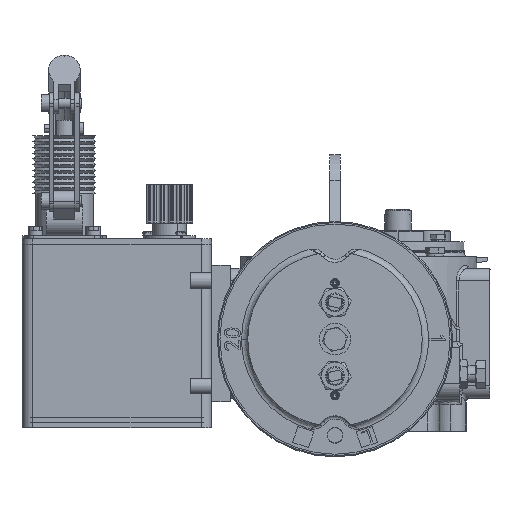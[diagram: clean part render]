
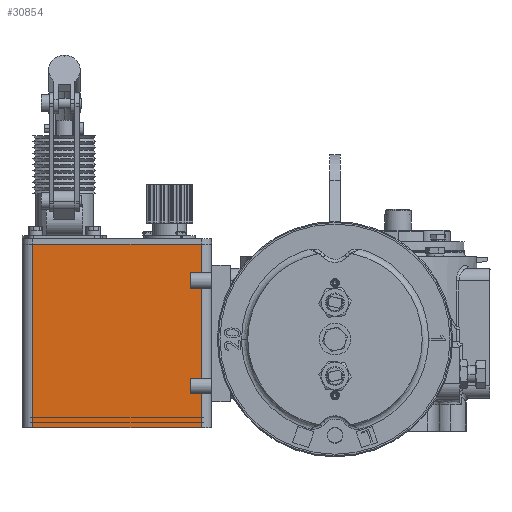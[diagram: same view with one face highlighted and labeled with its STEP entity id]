
A CAD part, left-side view. The second image highlights one B-rep face of the part: STEP entity #30854.
In plain terms, the highlighted planar face has unit normal (-1, 0, 0).
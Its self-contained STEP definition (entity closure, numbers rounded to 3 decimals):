
#317 = EDGE_CURVE ( 'NONE', #87965, #77991, #18304, .T. ) ;
#1268 = CARTESIAN_POINT ( 'NONE',  ( -90., 150., -27. ) ) ;
#2567 = DIRECTION ( 'NONE',  ( 0., 1., 0. ) ) ;
#6188 = EDGE_CURVE ( 'NONE', #99426, #86934, #88446, .T. ) ;
#9833 = DIRECTION ( 'NONE',  ( 0., 0., -1. ) ) ;
#10454 = DIRECTION ( 'NONE',  ( 0., 1., 0. ) ) ;
#10674 = ORIENTED_EDGE ( 'NONE', *, *, #6188, .F. ) ;
#13387 = ORIENTED_EDGE ( 'NONE', *, *, #317, .T. ) ;
#15925 = VECTOR ( 'NONE', #2567, 1000. ) ;
#18304 = LINE ( 'NONE', #26992, #100488 ) ;
#18516 = CARTESIAN_POINT ( 'NONE',  ( -90., 310., -27. ) ) ;
#21960 = CARTESIAN_POINT ( 'NONE',  ( -90., 150., 148. ) ) ;
#26992 = CARTESIAN_POINT ( 'NONE',  ( -90., 230., 148. ) ) ;
#28257 = VECTOR ( 'NONE', #9833, 1000. ) ;
#29031 = DIRECTION ( 'NONE',  ( 0., 0., -1. ) ) ;
#30854 = ADVANCED_FACE ( 'NONE', ( #33969 ), #65206, .F. ) ;
#33969 = FACE_OUTER_BOUND ( 'NONE', #69668, .T. ) ;
#34744 = AXIS2_PLACEMENT_3D ( 'NONE', #67232, #98399, #10454 ) ;
#36397 = VECTOR ( 'NONE', #29031, 1000. ) ;
#36683 = CARTESIAN_POINT ( 'NONE',  ( -90., 150., 60.5 ) ) ;
#43555 = EDGE_CURVE ( 'NONE', #77991, #86934, #49212, .T. ) ;
#49212 = LINE ( 'NONE', #55411, #28257 ) ;
#55411 = CARTESIAN_POINT ( 'NONE',  ( -90., 310., 60.5 ) ) ;
#58237 = DIRECTION ( 'NONE',  ( 0., 1., 0. ) ) ;
#60251 = LINE ( 'NONE', #36683, #36397 ) ;
#65206 = PLANE ( 'NONE',  #34744 ) ;
#65467 = CARTESIAN_POINT ( 'NONE',  ( -90., 230., -27. ) ) ;
#67232 = CARTESIAN_POINT ( 'NONE',  ( -90., 150., -27. ) ) ;
#69668 = EDGE_LOOP ( 'NONE', ( #81043, #13387, #77301, #10674 ) ) ;
#77301 = ORIENTED_EDGE ( 'NONE', *, *, #43555, .T. ) ;
#77781 = CARTESIAN_POINT ( 'NONE',  ( -90., 310., 148. ) ) ;
#77991 = VERTEX_POINT ( 'NONE', #77781 ) ;
#81043 = ORIENTED_EDGE ( 'NONE', *, *, #93802, .F. ) ;
#86934 = VERTEX_POINT ( 'NONE', #18516 ) ;
#87965 = VERTEX_POINT ( 'NONE', #21960 ) ;
#88446 = LINE ( 'NONE', #65467, #15925 ) ;
#93802 = EDGE_CURVE ( 'NONE', #87965, #99426, #60251, .T. ) ;
#98399 = DIRECTION ( 'NONE',  ( 1., 0., 0. ) ) ;
#99426 = VERTEX_POINT ( 'NONE', #1268 ) ;
#100488 = VECTOR ( 'NONE', #58237, 1000. ) ;
